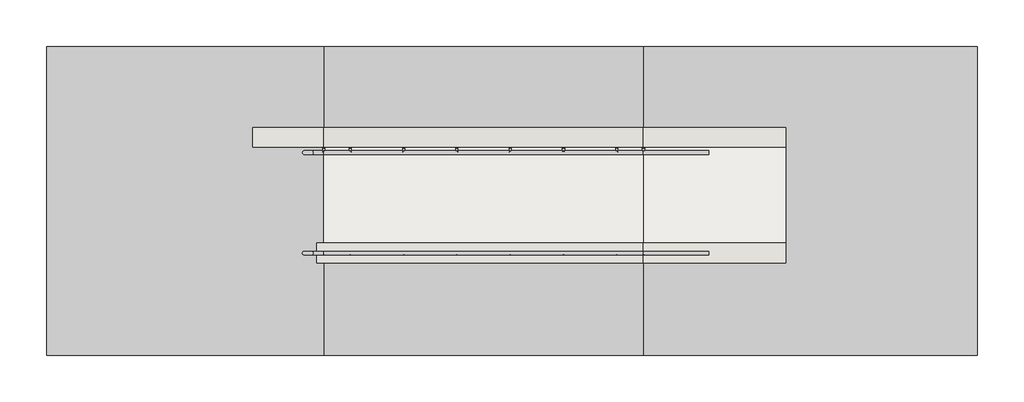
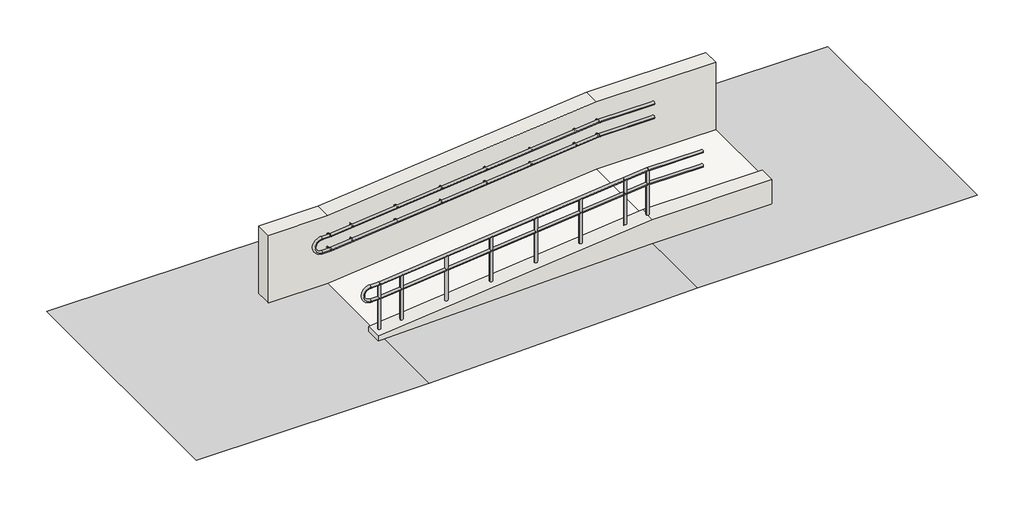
# One storey: 2 proxies, 2 walls, 1 slab.
"""IFC4 building model written with IfcOpenShell, lengths in millimetres."""

from ifc_helpers import new_model, si_unit, frame, origin, place, context, project, spatial, polyline, outline, extrude, triangles, transform, mapped, element, save
from components import generic_models_b3a5f6b1, generic_models_bd655d27

model = new_model("IFC4")

# Units and contexts
model_context = context("Model", 3, world=origin())
ifc_project = project(units=[si_unit("LENGTHUNIT", "METRE", prefix="MILLI")], contexts=[model_context])

# Site, building, storey
site = spatial("IfcSite", under=ifc_project)
building = spatial("IfcBuilding", under=site)
storey = spatial("IfcBuildingStorey", under=building, Name="标高 1", Elevation=0.0)

# Proxies
placement = place(None, origin())
element("IfcBuildingElementProxy", 1, Name="Building Element Proxy", at=placement, inside=storey, context=model_context, shape_type="Tessellation", body=[
    triangles([(-1081.7579533, 5753.5092773, -329.999988), (-1081.7579533, 1403.5093895, -329.999988), (3618.2419373, 1403.5093895, -329.999988), (3618.2419373, 5753.5092773, -329.999988), (-5581.7581329, 5753.5092773, -450.0000034), (-5581.7581329, 1403.5093895, -450.0000034), (-9481.757872, 1403.5093895, -450.0000034), (-9481.757872, 5753.5092773, -450.0000034)], [[7, 6, 5], [4, 1, 3], [2, 1, 5], [5, 8, 7], [6, 2, 5], [2, 3, 1]], closed=False),
])
generic_models_shape = generic_models_b3a5f6b1(model_context)
generic_models_2_shape = generic_models_bd655d27(model_context)
element("IfcBuildingElementProxy", 2, Name="常规模型 1 : 常规模型 1", ObjectType="常规模型 1 : 常规模型 1", at=placement, inside=storey, context=model_context, shape_type="MappedRepresentation", body=[
    mapped(generic_models_shape, transform((0.0, 0.0, 0.0), x_axis=(1.0, 0.0, 0.0), y_axis=(0.0, 1.0, 0.0), z_axis=(0.0, 0.0, 1.0))),
    mapped(generic_models_2_shape, transform((0.0, 0.0, 0.0), x_axis=(1.0, 0.0, 0.0), y_axis=(0.0, 1.0, 0.0), z_axis=(0.0, 0.0, 1.0))),
])

# Slab
element("IfcSlab", 3, ObjectType="坡道-330mm", at=placement, inside=storey, context=model_context, shape_type="SweptSolid", body=[
    extrude(outline(polyline([(-330.0, 918.2420685), (0.0, 918.2420685), (0.0, -1081.7579315), (-450.0, -5581.7579315), (-780.0, -5581.7579315), (-330.0, -1081.7579315), (-330.0, 918.2420685)])), frame((0.0, 2983.5094486, 0.0), z_axis=(0.0, 1.0, 0.0), x_axis=(0.0, 0.0, 1.0)), (0.0, 0.0, 1.0), 1350.0),
])

# Walls
element("IfcWall", 4, ObjectType="280mm墙体", at=placement, inside=storey, context=model_context, shape_type="SweptSolid", body=[
    extrude(outline(polyline([(1200.0, 918.2420685), (1200.0, -1081.7579315), (750.0, -5581.7579315), (750.0, -6581.7579315), (-450.0, -6581.7579315), (-450.0, -5581.7579315), (-330.0, -1081.7579315), (-330.0, 918.2420685), (1200.0, 918.2420685)])), frame((0.0, 4333.5094486, 0.0), z_axis=(0.0, 1.0, 0.0), x_axis=(0.0, 0.0, 1.0)), (0.0, 0.0, 1.0), 280.0),
])
element("IfcWall", 5, ObjectType="280mm墙体", at=placement, inside=storey, context=model_context, shape_type="SweptSolid", body=[
    extrude(outline(polyline([(100.0, 918.2420685), (100.0, -1086.7454936), (-359.5012438, -5681.7579315), (-450.0, -5681.7579315), (-450.0, -5581.7579315), (-330.0, -1081.7579315), (-330.0, 918.2420685), (100.0, 918.2420685)])), frame((0.0, 2703.5094486, 0.0), z_axis=(0.0, 1.0, 0.0), x_axis=(0.0, 0.0, 1.0)), (0.0, 0.0, 1.0), 280.0),
])

save(model, "model.ifc")
